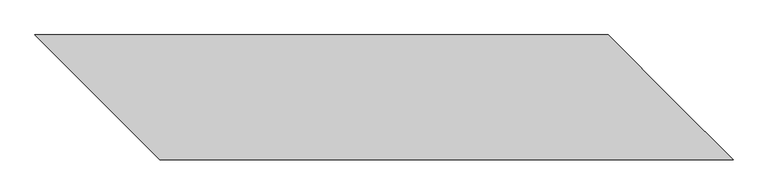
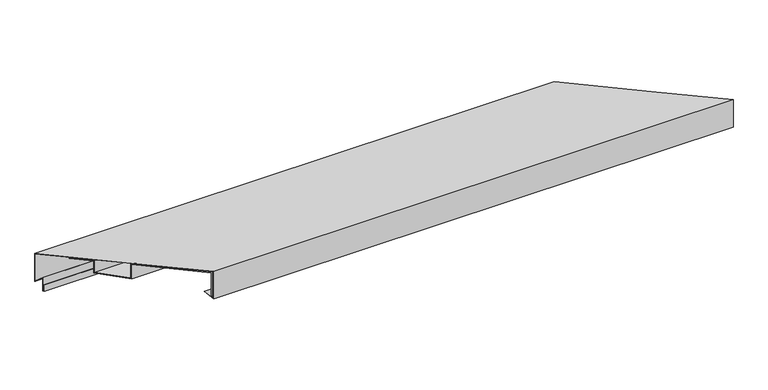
"""IFC4 building model written with IfcOpenShell, lengths in millimetres: proxy geometry, АК5_1 Парапет : АК5_1 Парапет."""

from ifc_helpers import new_model, si_unit, origin, place, context, project, spatial, faceted_brep, source, transform, mapped, element, save


def generic_models_0423d03b(model_context):
    return source(origin(), model_context, "Body", "Brep", [
        faceted_brep([(150.0, -150.0, 62.265966), (150.0, -150.0, -20.4), (1649.0843952, -150.0, -20.4), (1649.0843952, -150.0, 62.265966), (-177.1, 177.1, 33.6484242), (0.0, 0.0, 49.1426665), (1499.0843952, 0.0, 49.1426665), (1321.9843952, 177.1, 33.6484242), (-177.1, 177.1, -51.4916897), (1321.9843952, 177.1, -51.4916897), (-162.9578644, 162.9578644, -37.3495541), (1336.1265308, 162.9578644, -37.3495541), (-162.9578644, 162.9578644, -77.3495541), (1336.1265308, 162.9578644, -77.3495541), (-160.0, 160.0, -77.3495541), (1339.0843952, 160.0, -77.3495541), (-160.0, 160.0, -57.3495541), (1339.0843952, 160.0, -57.3495541), (-161.0, 161.0, -57.3495541), (1338.0843952, 161.0, -57.3495541), (-161.0, 161.0, -76.3495541), (1338.0843952, 161.0, -76.3495541), (-161.9578644, 161.9578644, -76.3495541), (1337.1265308, 161.9578644, -76.3495541), (-161.9578644, 161.9578644, -34.9353406), (1337.1265308, 161.9578644, -34.9353406), (-176.1, 176.1, -49.0774762), (1322.9843952, 176.1, -49.0774762), (-176.1, 176.1, 32.732093), (1322.9843952, 176.1, 32.732093), (0.0, 0.0, 48.1388467), (1499.0843952, 0.0, 48.1388467), (1648.0843952, -149.0, 61.1746575), (149.0, -149.0, 61.1746575), (149.0, -149.0, -17.9857864), (1648.0843952, -149.0, -17.9857864), (133.0294373, -133.0294373, -2.0152237), (1632.1138324, -133.0294373, -2.0152237), (132.3223305, -132.3223305, -2.7223305), (1631.4067256, -132.3223305, -2.7223305)], [[[0, 1, 2, 3]], [[4, 5, 0, 3, 6, 7]], [[8, 4, 7, 9]], [[10, 8, 9, 11]], [[12, 10, 11, 13]], [[14, 12, 13, 15]], [[16, 14, 15, 17]], [[18, 16, 17, 19]], [[20, 18, 19, 21]], [[22, 20, 21, 23]], [[24, 22, 23, 25]], [[26, 24, 25, 27]], [[28, 26, 27, 29]], [[30, 28, 29, 31, 32, 33]], [[34, 33, 32, 35]], [[36, 34, 35, 37]], [[38, 36, 37, 39]], [[1, 38, 39, 2]], [[30, 5, 4, 8, 10, 12, 14, 16, 18, 20, 22, 24, 26, 28]], [[5, 30, 33, 34, 36, 38, 1, 0]], [[6, 31, 29, 27, 25, 23, 21, 19, 17, 15, 13, 11, 9, 7]], [[31, 6, 3, 2, 39, 37, 35, 32]]]),
        faceted_brep([(148.0, -148.0, -12.5), (146.0, -146.0, -12.5), (1645.0843952, -146.0, -12.5), (1647.0843952, -148.0, -12.5), (148.0, -148.0, 60.083349), (1647.0843952, -148.0, 60.083349), (-1.5433638, 1.5433638, 47.0), (0.0, 0.0, 47.1350268), (1499.0843952, 0.0, 47.1350268), (1497.5410314, 1.5433638, 47.0), (-1.5433638, 1.5433638, 4.0), (1497.5410314, 1.5433638, 4.0), (-67.5433638, 67.5433638, 4.0), (1431.5410314, 67.5433638, 4.0), (-67.5433638, 67.5433638, 41.2257482), (1431.5410314, 67.5433638, 41.2257482), (-114.5464367, 114.5464367, 37.1135122), (1384.5379585, 114.5464367, 37.1135122), (-114.3721252, 114.3721252, 35.1211228), (1384.71227, 114.3721252, 35.1211228), (-69.5433638, 69.5433638, 39.0431312), (1429.5410314, 69.5433638, 39.0431312), (-69.5433638, 69.5433638, 2.0), (1429.5410314, 69.5433638, 2.0), (0.0, 0.0, 2.0), (1499.0843952, 0.0, 2.0), (1499.5410314, -0.4566362, 2.0), (0.4566362, -0.4566362, 2.0), (0.4566362, -0.4566362, 45.1673377), (1499.5410314, -0.4566362, 45.1673377), (146.0, -146.0, 57.900732), (1645.0843952, -146.0, 57.900732)], [[[0, 1, 2, 3]], [[4, 0, 3, 5]], [[6, 7, 4, 5, 8, 9]], [[10, 6, 9, 11]], [[12, 10, 11, 13]], [[14, 12, 13, 15]], [[16, 14, 15, 17]], [[18, 16, 17, 19]], [[20, 18, 19, 21]], [[22, 20, 21, 23]], [[24, 22, 23, 25, 26, 27]], [[28, 27, 26, 29]], [[30, 28, 29, 31]], [[1, 30, 31, 2]], [[24, 7, 6, 10, 12, 14, 16, 18, 20, 22]], [[7, 24, 27, 28, 30, 1, 0, 4]], [[8, 25, 23, 21, 19, 17, 15, 13, 11, 9]], [[25, 8, 5, 3, 2, 31, 29, 26]]]),
    ])


if __name__ == "__main__":
    model = new_model("IFC4")
    model_context = context("Model", 3, world=origin())
    ifc_project = project(units=[si_unit("LENGTHUNIT", "METRE", prefix="MILLI")], contexts=[model_context])
    site = spatial("IfcSite", under=ifc_project)
    building = spatial("IfcBuilding", under=site)
    placement = place(None, origin())
    generic_models_shape = generic_models_0423d03b(model_context)
    element("IfcBuildingElementProxy", 1, Name="АК5_1 Парапет : АК5_1 Парапет", ObjectType="АК5_1 Парапет : АК5_1 Парапет", at=placement, inside=building, context=model_context, shape_type="MappedRepresentation", body=[
        mapped(generic_models_shape, transform((0.0, 0.0, 0.0), x_axis=(1.0, 0.0, 0.0), y_axis=(0.0, 1.0, 0.0), z_axis=(0.0, 0.0, 1.0))),
    ])
    save(model, "model.ifc")
